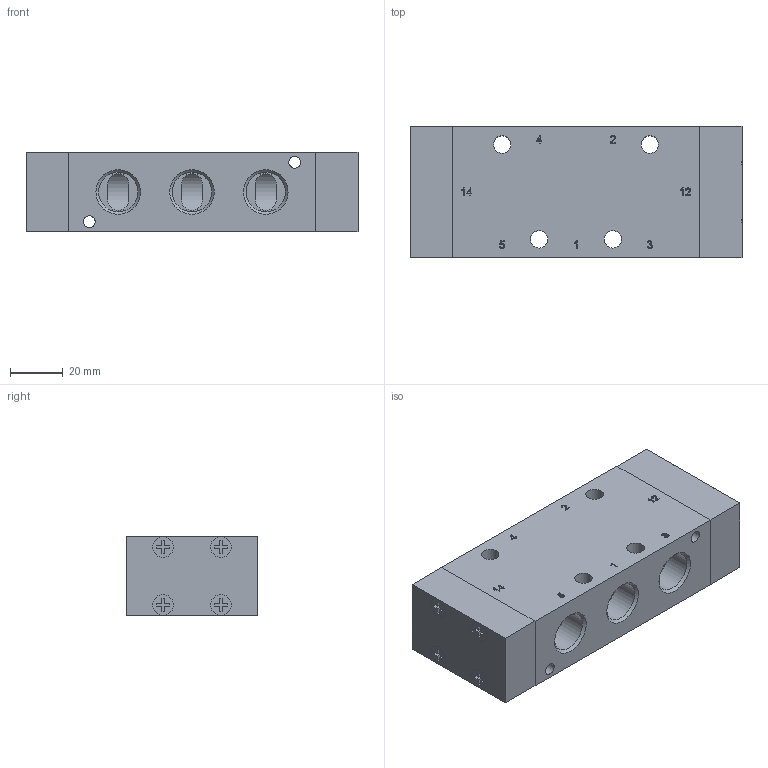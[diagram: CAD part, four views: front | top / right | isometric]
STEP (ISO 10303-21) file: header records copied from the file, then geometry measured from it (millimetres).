
FILE_DESCRIPTION(/* description */ ('Unknown'),/* implementation_level */ '2;1');
FILE_NAME(/* name */ 'P 531 101 G',/* time_stamp */ '2024-03-27T10:21:05+01:00',/* author */ ('Unknown'),/* organization */ ('HAFNER Pneumatika Kft.'),/* preprocessor_version */ 'ST-DEVELOPER v18.102',/* originating_system */ 'Solid Edge',/* authorisation */ 'Unknown');
FILE_SCHEMA (('AUTOMOTIVE_DESIGN {1 0 10303 214 3 1 1}'));
Length unit declared in the file: millimetre
Products named in the file (2): P 531 101 G
Assembly tree (1 placements, depth 2):
  P 531 101 G
    P 531 101 G
Bounding box: 126 x 50 x 30 mm (x, y, z)
Surface area: 33030.2 mm2 (no closed solid volume)
Topology: 0 solids, 3 shells, 311 faces, 988 edges, 669 vertices
Faces by surface type: plane 229, cylinder 43, bspline 32, cone 7
Full cylindrical faces by diameter (mm): 4.5 x2, 6.6 x4, 7.9 x8, 8.566 x4, 14.95 x10, 17 x1, 17.2 x4
Entity records: 14196 total; most frequent: CARTESIAN_POINT 3776, ORIENTED_EDGE 1590, DIRECTION 1491, EDGE_CURVE 933, LINE 749, VECTOR 749, VERTEX_POINT 654, EDGE_LOOP 426
